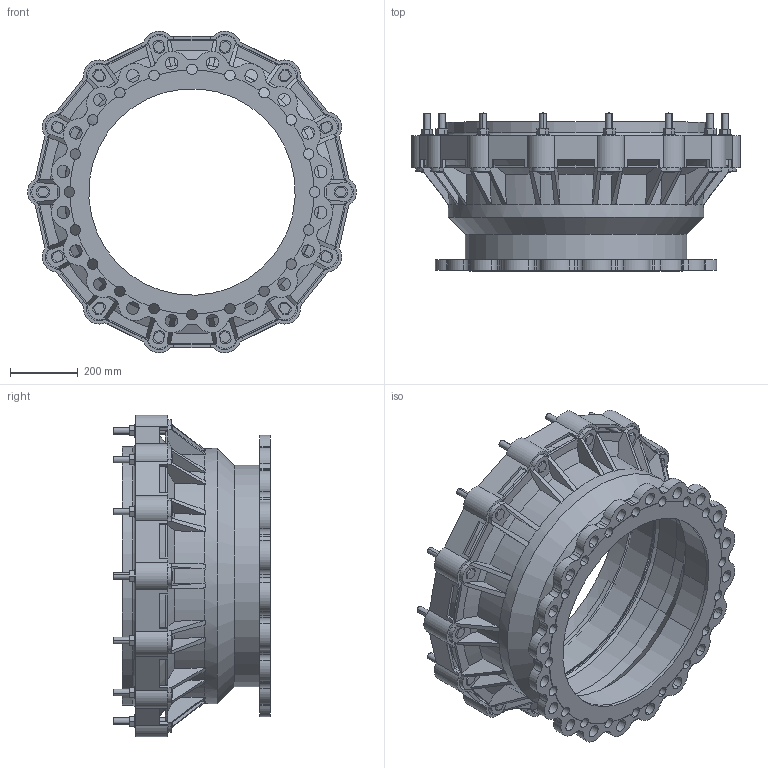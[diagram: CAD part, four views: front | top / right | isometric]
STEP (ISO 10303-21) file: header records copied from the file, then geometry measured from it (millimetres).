
FILE_DESCRIPTION((''),'2;1');
FILE_NAME('BIM_13199_20_ASM','2020-09-10T',('MReader'),(''),'CREO PARAMETRIC BY PTC INC, 2016130','CREO PARAMETRIC BY PTC INC, 2016130','');
FILE_SCHEMA(('CONFIG_CONTROL_DESIGN'));
Length unit declared in the file: millimetre
Products named in the file (6): 676-720X600; 676-726_GASKET_BIM; _BIM_13417_5; BIM_M20_BOLT; BIM_M20_NUT; BIM_13199_20_ASM
Assembly tree (31 placements, depth 2):
  BIM_13199_20_ASM
    676-720X600
    676-726_GASKET_BIM
    _BIM_13417_5
    BIM_M20_BOLT  x14
    BIM_M20_NUT  x14
Bounding box: 972 x 466 x 949.82 mm (x, y, z)
Volume: 30394584.6 mm3; surface area: 4754350.6 mm2
Topology: 31 solids, 31 shells, 1015 faces, 2772 edges, 1818 vertices
Faces by surface type: plane 501, cylinder 406, cone 78, sphere 28, torus 2
Entity records: 24833 total; most frequent: CARTESIAN_POINT 4852, DIRECTION 4238, ORIENTED_EDGE 4188, EDGE_CURVE 2094, AXIS2_PLACEMENT_3D 1643, VERTEX_POINT 1389, VECTOR 952, LINE 952
